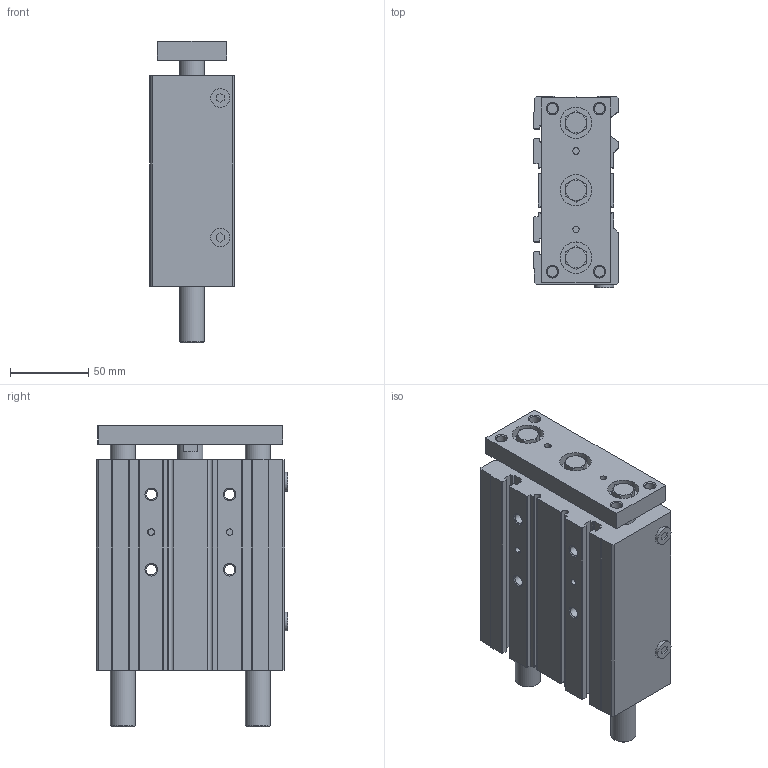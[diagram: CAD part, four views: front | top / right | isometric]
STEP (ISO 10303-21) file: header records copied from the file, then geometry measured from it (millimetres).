
FILE_DESCRIPTION( ( 'STEP AP214' ), '1' );
FILE_NAME( 'C:/Users/emc02044/Desktop/SGL SGM/SGL40X90-S.stp', '2026-07-24T02:44:00', ( 'License CC BY-ND 4.0' ), ( 'CADENAS' ), ' ', 'PARTsolutions', ' ' );
FILE_SCHEMA( ( 'AUTOMOTIVE_DESIGN { 1 0 10303 214 1 1 1 1 }' ) );
Length unit declared in the file: millimetre
Products named in the file (4): SGL40X90X0-S(); _SGL40x90-M(SG:Shaft cylinderL40X90X0-S:with magnet()dummy-0) 0; _SGL40x90-M(-0)-body; _SGL40x90-M(-0)-rod
Assembly tree (3 placements, depth 2):
  SGL40X90X0-S()
    _SGL40x90-M(SG:Shaft cylinderL40X90X0-S:with magnet()dummy-0) 0
    _SGL40x90-M(-0)-body
    _SGL40x90-M(-0)-rod
Bounding box: 54 x 122 x 192 mm (x, y, z)
Volume: 698828.9 mm3; surface area: 160403.4 mm2
Topology: 2 solids, 4 shells, 347 faces, 845 edges, 544 vertices
Faces by surface type: plane 176, cylinder 113, cone 58
Full cylindrical faces by diameter (mm): 4 x6, 6.647 x12, 6.9 x4, 8.566 x4, 11 x4, 12 x2, 16 x6, 20 x3, 24 x2, 26 x2, 40 x3
Entity records: 12741 total; most frequent: CARTESIAN_POINT 1971, DIRECTION 1666, ORIENTED_EDGE 1528, EDGE_CURVE 764, AXIS2_PLACEMENT_3D 641, VERTEX_POINT 532, EDGE_LOOP 474, FACE_OUTER_BOUND 395
